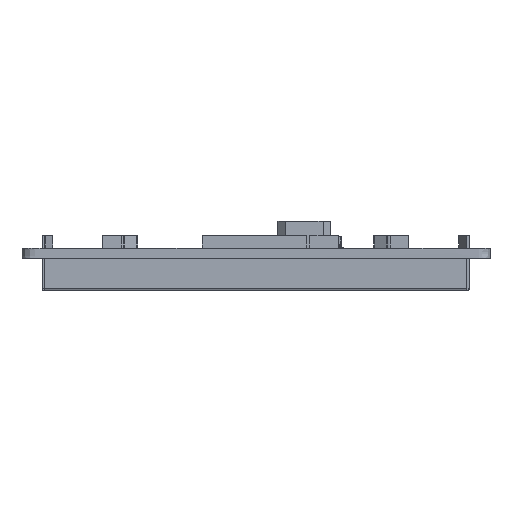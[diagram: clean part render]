
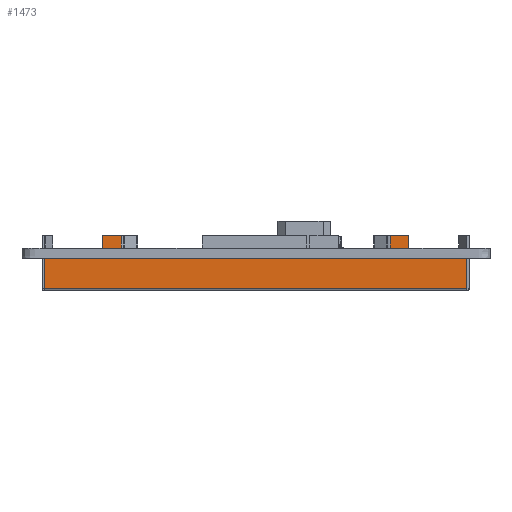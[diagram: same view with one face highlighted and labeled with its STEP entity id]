
A CAD part, left-side view. The second image highlights one B-rep face of the part: STEP entity #1473.
In plain terms, the highlighted planar face has unit normal (-1, 0, 0).
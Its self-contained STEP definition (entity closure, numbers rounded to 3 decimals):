
#1473=ADVANCED_FACE('',(#3461),#2608,.F.);
#2608=PLANE('',#22868);
#3461=FACE_OUTER_BOUND('',#4568,.T.);
#4568=EDGE_LOOP('',(#5796,#5797,#5798,#5799,#5800,#5801,#5802,#5803,#5804,
#5805,#5806,#5807,#5808,#5809,#5810,#5811));
#5796=ORIENTED_EDGE('',*,*,#14349,.T.);
#5797=ORIENTED_EDGE('',*,*,#14350,.F.);
#5798=ORIENTED_EDGE('',*,*,#14351,.F.);
#5799=ORIENTED_EDGE('',*,*,#14352,.T.);
#5800=ORIENTED_EDGE('',*,*,#14353,.T.);
#5801=ORIENTED_EDGE('',*,*,#14354,.T.);
#5802=ORIENTED_EDGE('',*,*,#14347,.T.);
#5803=ORIENTED_EDGE('',*,*,#14355,.F.);
#5804=ORIENTED_EDGE('',*,*,#14356,.T.);
#5805=ORIENTED_EDGE('',*,*,#14357,.F.);
#5806=ORIENTED_EDGE('',*,*,#14358,.F.);
#5807=ORIENTED_EDGE('',*,*,#14359,.T.);
#5808=ORIENTED_EDGE('',*,*,#14341,.T.);
#5809=ORIENTED_EDGE('',*,*,#14360,.F.);
#5810=ORIENTED_EDGE('',*,*,#14361,.F.);
#5811=ORIENTED_EDGE('',*,*,#14362,.T.);
#12238=VERTEX_POINT('',#30620);
#12239=VERTEX_POINT('',#30621);
#12244=VERTEX_POINT('',#30632);
#12245=VERTEX_POINT('',#30634);
#12246=VERTEX_POINT('',#30638);
#12247=VERTEX_POINT('',#30639);
#12248=VERTEX_POINT('',#30641);
#12249=VERTEX_POINT('',#30643);
#12250=VERTEX_POINT('',#30645);
#12251=VERTEX_POINT('',#30647);
#12252=VERTEX_POINT('',#30650);
#12253=VERTEX_POINT('',#30652);
#12254=VERTEX_POINT('',#30654);
#12255=VERTEX_POINT('',#30656);
#12256=VERTEX_POINT('',#30659);
#12257=VERTEX_POINT('',#30661);
#14341=EDGE_CURVE('',#12238,#12239,#17566,.T.);
#14347=EDGE_CURVE('',#12245,#12244,#17572,.T.);
#14349=EDGE_CURVE('',#12246,#12247,#17574,.T.);
#14350=EDGE_CURVE('',#12248,#12247,#17575,.T.);
#14351=EDGE_CURVE('',#12249,#12248,#17576,.T.);
#14352=EDGE_CURVE('',#12249,#12250,#17577,.T.);
#14353=EDGE_CURVE('',#12250,#12251,#17578,.T.);
#14354=EDGE_CURVE('',#12251,#12245,#17579,.T.);
#14355=EDGE_CURVE('',#12252,#12244,#17580,.T.);
#14356=EDGE_CURVE('',#12252,#12253,#17581,.T.);
#14357=EDGE_CURVE('',#12254,#12253,#17582,.T.);
#14358=EDGE_CURVE('',#12255,#12254,#17583,.T.);
#14359=EDGE_CURVE('',#12255,#12238,#17584,.T.);
#14360=EDGE_CURVE('',#12256,#12239,#17585,.T.);
#14361=EDGE_CURVE('',#12257,#12256,#17586,.T.);
#14362=EDGE_CURVE('',#12257,#12246,#17587,.T.);
#17566=LINE('',#30619,#20215);
#17572=LINE('',#30633,#20221);
#17574=LINE('',#30637,#20223);
#17575=LINE('',#30640,#20224);
#17576=LINE('',#30642,#20225);
#17577=LINE('',#30644,#20226);
#17578=LINE('',#30646,#20227);
#17579=LINE('',#30648,#20228);
#17580=LINE('',#30649,#20229);
#17581=LINE('',#30651,#20230);
#17582=LINE('',#30653,#20231);
#17583=LINE('',#30655,#20232);
#17584=LINE('',#30657,#20233);
#17585=LINE('',#30658,#20234);
#17586=LINE('',#30660,#20235);
#17587=LINE('',#30662,#20236);
#20215=VECTOR('',#24568,1.);
#20221=VECTOR('',#24576,1.);
#20223=VECTOR('',#24580,1.);
#20224=VECTOR('',#24581,1.);
#20225=VECTOR('',#24582,1.);
#20226=VECTOR('',#24583,1.);
#20227=VECTOR('',#24584,1.);
#20228=VECTOR('',#24585,1.);
#20229=VECTOR('',#24586,1.);
#20230=VECTOR('',#24587,1.);
#20231=VECTOR('',#24588,1.);
#20232=VECTOR('',#24589,1.);
#20233=VECTOR('',#24590,1.);
#20234=VECTOR('',#24591,1.);
#20235=VECTOR('',#24592,1.);
#20236=VECTOR('',#24593,1.);
#22868=AXIS2_PLACEMENT_3D('',#30663,#24594,#24595);
#24568=DIRECTION('',(0.,1.,0.));
#24576=DIRECTION('',(0.,1.,0.));
#24580=DIRECTION('',(0.,1.,0.));
#24581=DIRECTION('',(0.,0.,-1.));
#24582=DIRECTION('',(0.,-1.,0.));
#24583=DIRECTION('',(0.,0.,-1.));
#24584=DIRECTION('',(0.,1.,0.));
#24585=DIRECTION('',(0.,0.,-1.));
#24586=DIRECTION('',(0.,0.,-1.));
#24587=DIRECTION('',(0.,-1.,0.));
#24588=DIRECTION('',(0.,0.,-1.));
#24589=DIRECTION('',(0.,-1.,0.));
#24590=DIRECTION('',(0.,0.,-1.));
#24591=DIRECTION('',(0.,0.,1.));
#24592=DIRECTION('',(0.,1.,0.));
#24593=DIRECTION('',(0.,0.,1.));
#24594=DIRECTION('',(1.,0.,0.));
#24595=DIRECTION('',(0.,1.,0.));
#30619=CARTESIAN_POINT('',(223.499,-16.955,-1.6));
#30620=CARTESIAN_POINT('',(223.499,41.205,-1.6));
#30621=CARTESIAN_POINT('',(223.499,50.445,-1.6));
#30632=CARTESIAN_POINT('',(223.499,38.205,-1.6));
#30633=CARTESIAN_POINT('',(223.499,-16.955,-1.6));
#30634=CARTESIAN_POINT('',(223.499,-4.715,-1.6));
#30637=CARTESIAN_POINT('',(223.499,-16.955,-1.6));
#30638=CARTESIAN_POINT('',(223.499,-16.955,-1.6));
#30639=CARTESIAN_POINT('',(223.499,-7.715,-1.6));
#30640=CARTESIAN_POINT('',(223.499,-7.715,0.));
#30641=CARTESIAN_POINT('',(223.499,-7.715,2.));
#30642=CARTESIAN_POINT('',(223.499,-4.75,2.));
#30643=CARTESIAN_POINT('',(223.499,-4.75,2.));
#30644=CARTESIAN_POINT('',(223.499,-4.75,2.));
#30645=CARTESIAN_POINT('',(223.499,-4.75,0.));
#30646=CARTESIAN_POINT('',(223.499,-7.715,0.));
#30647=CARTESIAN_POINT('',(223.499,-4.715,0.));
#30648=CARTESIAN_POINT('',(223.499,-4.715,0.));
#30649=CARTESIAN_POINT('',(223.499,38.205,0.));
#30650=CARTESIAN_POINT('',(223.499,38.205,0.));
#30651=CARTESIAN_POINT('',(223.499,41.205,0.));
#30652=CARTESIAN_POINT('',(223.499,38.194,0.));
#30653=CARTESIAN_POINT('',(223.499,38.194,2.));
#30654=CARTESIAN_POINT('',(223.499,38.194,2.));
#30655=CARTESIAN_POINT('',(223.499,41.205,2.));
#30656=CARTESIAN_POINT('',(223.499,41.205,2.));
#30657=CARTESIAN_POINT('',(223.499,41.205,0.));
#30658=CARTESIAN_POINT('',(223.499,50.445,-6.4));
#30659=CARTESIAN_POINT('',(223.499,50.445,-6.4));
#30660=CARTESIAN_POINT('',(223.499,-16.955,-6.4));
#30661=CARTESIAN_POINT('',(223.499,-16.955,-6.4));
#30662=CARTESIAN_POINT('',(223.499,-16.955,-6.4));
#30663=CARTESIAN_POINT('',(223.499,-16.955,-6.4));
